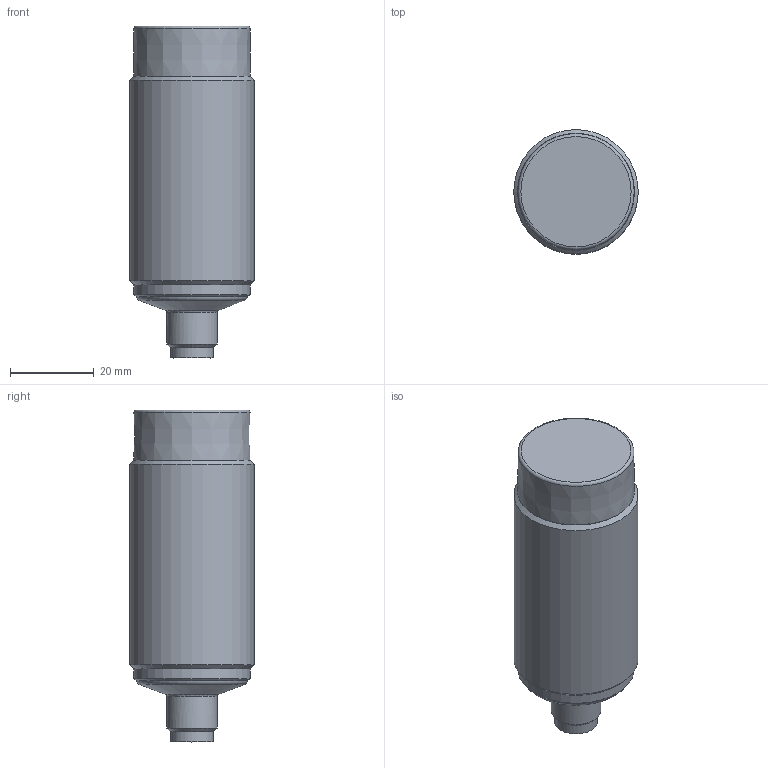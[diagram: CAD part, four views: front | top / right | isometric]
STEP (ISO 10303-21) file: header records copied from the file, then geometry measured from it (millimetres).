
FILE_DESCRIPTION(/* description */ (''),/* implementation_level */ '2;1');
FILE_NAME(/* name */ 'Z:\PG_031_033_365_369\031\progetti\_assemblies 3D\Contorno semplificato\ICS30 IP69K\ics30_long_no_flush_asm.stp',/* time_stamp */ '2015-05-07T15:29:53+02:00',/* author */ ('ddecol'),/* organization */ (''),/* preprocessor_version */ 'ST-DEVELOPER v15.6',/* originating_system */ 'Autodesk Inventor 2015',/* authorisation */ '');
FILE_SCHEMA (('AUTOMOTIVE_DESIGN { 1 0 10303 214 3 1 1 }'));
Length unit declared in the file: millimetre
Products named in the file (1): ics30_long_no_flush_asm
Bounding box: 29.8 x 29.8 x 79.5 mm (x, y, z)
Surface area: 8090.5 mm2 (no closed solid volume)
Topology: 0 solids, 7 shells, 35 faces, 135 edges, 105 vertices
Faces by surface type: cylinder 10, cone 10, plane 7, sphere 5, torus 3
Full cylindrical faces by diameter (mm): 1 x4, 10.3 x1, 12 x1, 27.8 x1, 29.8 x1
Entity records: 1714 total; most frequent: CARTESIAN_POINT 747, DIRECTION 187, ORIENTED_EDGE 138, EDGE_CURVE 95, AXIS2_PLACEMENT_3D 88, VERTEX_POINT 86, EDGE_LOOP 59, CIRCLE 44
